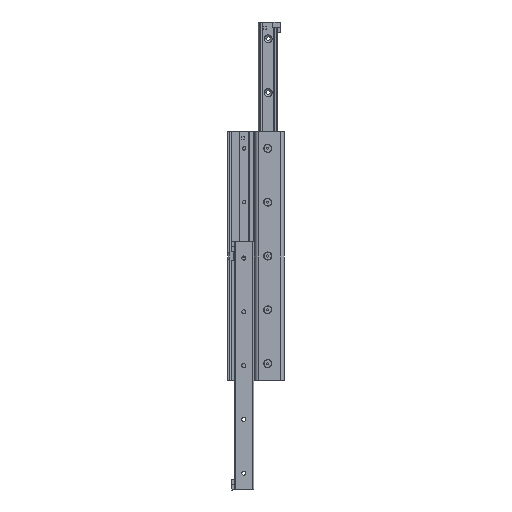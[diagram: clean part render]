
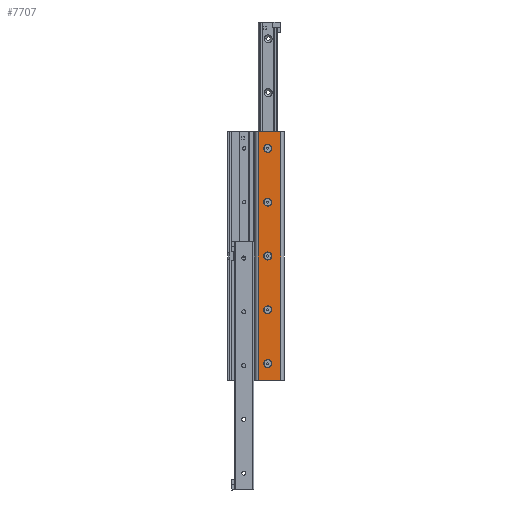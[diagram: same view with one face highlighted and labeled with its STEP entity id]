
A CAD part, left-side view. The second image highlights one B-rep face of the part: STEP entity #7707.
In plain terms, the highlighted planar face has unit normal (-1, 0, 0).
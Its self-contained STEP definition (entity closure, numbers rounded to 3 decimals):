
#43 = CARTESIAN_POINT ( 'NONE',  ( 0., 5., 0. ) ) ;
#86 = VERTEX_POINT ( 'NONE', #6282 ) ;
#317 = EDGE_LOOP ( 'NONE', ( #1723, #1166, #5516, #620 ) ) ;
#365 = AXIS2_PLACEMENT_3D ( 'NONE', #829, #1050, #8838 ) ;
#512 = EDGE_CURVE ( 'NONE', #5264, #86, #5279, .T. ) ;
#620 = ORIENTED_EDGE ( 'NONE', *, *, #4135, .T. ) ;
#646 = LINE ( 'NONE', #9140, #1552 ) ;
#709 = CARTESIAN_POINT ( 'NONE',  ( 0., 5., 0. ) ) ;
#746 = EDGE_CURVE ( 'NONE', #3189, #3294, #3819, .T. ) ;
#759 = PLANE ( 'NONE',  #6441 ) ;
#774 = VERTEX_POINT ( 'NONE', #4989 ) ;
#829 = CARTESIAN_POINT ( 'NONE',  ( 0., 24.5, -345. ) ) ;
#874 = CIRCLE ( 'NONE', #3856, 6. ) ;
#1004 = DIRECTION ( 'NONE',  ( 1., 0., 0. ) ) ;
#1050 = DIRECTION ( 'NONE',  ( 1., 0., 0. ) ) ;
#1152 = CARTESIAN_POINT ( 'NONE',  ( 0., 24.5, -105. ) ) ;
#1166 = ORIENTED_EDGE ( 'NONE', *, *, #5703, .F. ) ;
#1268 = EDGE_CURVE ( 'NONE', #3968, #1489, #9020, .T. ) ;
#1297 = LINE ( 'NONE', #4171, #2199 ) ;
#1349 = FACE_BOUND ( 'NONE', #5715, .T. ) ;
#1464 = EDGE_CURVE ( 'NONE', #3294, #3189, #5806, .T. ) ;
#1475 = AXIS2_PLACEMENT_3D ( 'NONE', #7945, #2961, #8662 ) ;
#1489 = VERTEX_POINT ( 'NONE', #5505 ) ;
#1552 = VECTOR ( 'NONE', #2071, 1000. ) ;
#1606 = VERTEX_POINT ( 'NONE', #5660 ) ;
#1723 = ORIENTED_EDGE ( 'NONE', *, *, #5551, .F. ) ;
#1724 = DIRECTION ( 'NONE',  ( 1., 0., 0. ) ) ;
#1726 = CARTESIAN_POINT ( 'NONE',  ( 0., 38.5, 0. ) ) ;
#1744 = EDGE_LOOP ( 'NONE', ( #5754, #5744 ) ) ;
#1801 = FACE_BOUND ( 'NONE', #2062, .T. ) ;
#1804 = DIRECTION ( 'NONE',  ( 0., -1., 0. ) ) ;
#1886 = EDGE_CURVE ( 'NONE', #86, #5264, #8228, .T. ) ;
#2062 = EDGE_LOOP ( 'NONE', ( #8547, #8502 ) ) ;
#2071 = DIRECTION ( 'NONE',  ( 0., 0., 1. ) ) ;
#2177 = AXIS2_PLACEMENT_3D ( 'NONE', #1152, #8848, #2595 ) ;
#2199 = VECTOR ( 'NONE', #8354, 1000. ) ;
#2280 = LINE ( 'NONE', #7372, #4380 ) ;
#2381 = VERTEX_POINT ( 'NONE', #7161 ) ;
#2439 = CARTESIAN_POINT ( 'NONE',  ( 0., 24.5, -345. ) ) ;
#2492 = DIRECTION ( 'NONE',  ( 1., 0., 0. ) ) ;
#2509 = VERTEX_POINT ( 'NONE', #7872 ) ;
#2595 = DIRECTION ( 'NONE',  ( 0., -1., 0. ) ) ;
#2782 = DIRECTION ( 'NONE',  ( 1., 0., 0. ) ) ;
#2944 = DIRECTION ( 'NONE',  ( 0., -1., 0. ) ) ;
#2961 = DIRECTION ( 'NONE',  ( 1., 0., 0. ) ) ;
#2962 = AXIS2_PLACEMENT_3D ( 'NONE', #8936, #8128, #8874 ) ;
#3020 = FACE_BOUND ( 'NONE', #3741, .T. ) ;
#3189 = VERTEX_POINT ( 'NONE', #7488 ) ;
#3280 = VERTEX_POINT ( 'NONE', #1726 ) ;
#3283 = EDGE_CURVE ( 'NONE', #2381, #774, #7653, .T. ) ;
#3294 = VERTEX_POINT ( 'NONE', #3762 ) ;
#3302 = ORIENTED_EDGE ( 'NONE', *, *, #3886, .T. ) ;
#3327 = DIRECTION ( 'NONE',  ( 0., -1., 0. ) ) ;
#3381 = EDGE_CURVE ( 'NONE', #1606, #5720, #7542, .T. ) ;
#3398 = ORIENTED_EDGE ( 'NONE', *, *, #746, .T. ) ;
#3741 = EDGE_LOOP ( 'NONE', ( #3302, #9171 ) ) ;
#3750 = EDGE_LOOP ( 'NONE', ( #4302, #4769 ) ) ;
#3762 = CARTESIAN_POINT ( 'NONE',  ( 0., 24.5, -259. ) ) ;
#3819 = CIRCLE ( 'NONE', #8650, 6. ) ;
#3844 = AXIS2_PLACEMENT_3D ( 'NONE', #8410, #7042, #7654 ) ;
#3856 = AXIS2_PLACEMENT_3D ( 'NONE', #6049, #2492, #1804 ) ;
#3886 = EDGE_CURVE ( 'NONE', #5720, #1606, #874, .T. ) ;
#3905 = FACE_BOUND ( 'NONE', #1744, .T. ) ;
#3968 = VERTEX_POINT ( 'NONE', #4652 ) ;
#4007 = CARTESIAN_POINT ( 'NONE',  ( 0., 5., -370. ) ) ;
#4135 = EDGE_CURVE ( 'NONE', #8345, #8528, #646, .T. ) ;
#4171 = CARTESIAN_POINT ( 'NONE',  ( 0., 5., -370. ) ) ;
#4302 = ORIENTED_EDGE ( 'NONE', *, *, #4751, .T. ) ;
#4380 = VECTOR ( 'NONE', #7423, 1000. ) ;
#4418 = DIRECTION ( 'NONE',  ( 1., 0., 0. ) ) ;
#4517 = CIRCLE ( 'NONE', #7713, 6. ) ;
#4532 = EDGE_CURVE ( 'NONE', #2509, #8345, #1297, .T. ) ;
#4640 = EDGE_CURVE ( 'NONE', #774, #2381, #6516, .T. ) ;
#4652 = CARTESIAN_POINT ( 'NONE',  ( 0., 24.5, -351. ) ) ;
#4751 = EDGE_CURVE ( 'NONE', #1489, #3968, #4517, .T. ) ;
#4769 = ORIENTED_EDGE ( 'NONE', *, *, #1268, .T. ) ;
#4793 = FACE_OUTER_BOUND ( 'NONE', #317, .T. ) ;
#4989 = CARTESIAN_POINT ( 'NONE',  ( 0., 24.5, -19. ) ) ;
#5225 = CARTESIAN_POINT ( 'NONE',  ( 0., 24.5, -25. ) ) ;
#5264 = VERTEX_POINT ( 'NONE', #5908 ) ;
#5279 = CIRCLE ( 'NONE', #2177, 6. ) ;
#5396 = VECTOR ( 'NONE', #7958, 1000. ) ;
#5505 = CARTESIAN_POINT ( 'NONE',  ( 0., 24.5, -339. ) ) ;
#5516 = ORIENTED_EDGE ( 'NONE', *, *, #4532, .T. ) ;
#5551 = EDGE_CURVE ( 'NONE', #3280, #8528, #8157, .T. ) ;
#5604 = CARTESIAN_POINT ( 'NONE',  ( 0., 24.5, -265. ) ) ;
#5616 = ORIENTED_EDGE ( 'NONE', *, *, #1464, .T. ) ;
#5660 = CARTESIAN_POINT ( 'NONE',  ( 0., 24.5, -191. ) ) ;
#5703 = EDGE_CURVE ( 'NONE', #2509, #3280, #2280, .T. ) ;
#5715 = EDGE_LOOP ( 'NONE', ( #5616, #3398 ) ) ;
#5720 = VERTEX_POINT ( 'NONE', #6630 ) ;
#5744 = ORIENTED_EDGE ( 'NONE', *, *, #3283, .T. ) ;
#5754 = ORIENTED_EDGE ( 'NONE', *, *, #4640, .T. ) ;
#5806 = CIRCLE ( 'NONE', #3844, 6. ) ;
#5908 = CARTESIAN_POINT ( 'NONE',  ( 0., 24.5, -111. ) ) ;
#5981 = AXIS2_PLACEMENT_3D ( 'NONE', #5225, #4418, #7947 ) ;
#6042 = CARTESIAN_POINT ( 'NONE',  ( 0., 24.5, -105. ) ) ;
#6049 = CARTESIAN_POINT ( 'NONE',  ( 0., 24.5, -185. ) ) ;
#6126 = FACE_BOUND ( 'NONE', #3750, .T. ) ;
#6282 = CARTESIAN_POINT ( 'NONE',  ( 0., 24.5, -99. ) ) ;
#6441 = AXIS2_PLACEMENT_3D ( 'NONE', #7957, #7166, #2944 ) ;
#6516 = CIRCLE ( 'NONE', #1475, 6. ) ;
#6630 = CARTESIAN_POINT ( 'NONE',  ( 0., 24.5, -179. ) ) ;
#6691 = AXIS2_PLACEMENT_3D ( 'NONE', #6042, #1004, #8796 ) ;
#7042 = DIRECTION ( 'NONE',  ( 1., 0., 0. ) ) ;
#7161 = CARTESIAN_POINT ( 'NONE',  ( 0., 24.5, -31. ) ) ;
#7166 = DIRECTION ( 'NONE',  ( -1., 0., 0. ) ) ;
#7372 = CARTESIAN_POINT ( 'NONE',  ( 0., 38.5, -370. ) ) ;
#7423 = DIRECTION ( 'NONE',  ( 0., 0., 1. ) ) ;
#7488 = CARTESIAN_POINT ( 'NONE',  ( 0., 24.5, -271. ) ) ;
#7542 = CIRCLE ( 'NONE', #2962, 6. ) ;
#7653 = CIRCLE ( 'NONE', #5981, 6. ) ;
#7654 = DIRECTION ( 'NONE',  ( 0., -1., 0. ) ) ;
#7707 = ADVANCED_FACE ( 'NONE', ( #6126, #1349, #3020, #1801, #3905, #4793 ), #759, .T. ) ;
#7713 = AXIS2_PLACEMENT_3D ( 'NONE', #2439, #1724, #8159 ) ;
#7872 = CARTESIAN_POINT ( 'NONE',  ( 0., 38.5, -370. ) ) ;
#7945 = CARTESIAN_POINT ( 'NONE',  ( 0., 24.5, -25. ) ) ;
#7947 = DIRECTION ( 'NONE',  ( 0., -1., 0. ) ) ;
#7957 = CARTESIAN_POINT ( 'NONE',  ( 0., 5., -370. ) ) ;
#7958 = DIRECTION ( 'NONE',  ( 0., -1., 0. ) ) ;
#8128 = DIRECTION ( 'NONE',  ( 1., 0., 0. ) ) ;
#8157 = LINE ( 'NONE', #43, #5396 ) ;
#8159 = DIRECTION ( 'NONE',  ( 0., -1., 0. ) ) ;
#8228 = CIRCLE ( 'NONE', #6691, 6. ) ;
#8345 = VERTEX_POINT ( 'NONE', #4007 ) ;
#8354 = DIRECTION ( 'NONE',  ( 0., -1., 0. ) ) ;
#8410 = CARTESIAN_POINT ( 'NONE',  ( 0., 24.5, -265. ) ) ;
#8502 = ORIENTED_EDGE ( 'NONE', *, *, #512, .T. ) ;
#8528 = VERTEX_POINT ( 'NONE', #709 ) ;
#8547 = ORIENTED_EDGE ( 'NONE', *, *, #1886, .T. ) ;
#8650 = AXIS2_PLACEMENT_3D ( 'NONE', #5604, #2782, #3327 ) ;
#8662 = DIRECTION ( 'NONE',  ( 0., -1., 0. ) ) ;
#8796 = DIRECTION ( 'NONE',  ( 0., -1., 0. ) ) ;
#8838 = DIRECTION ( 'NONE',  ( 0., -1., 0. ) ) ;
#8848 = DIRECTION ( 'NONE',  ( 1., 0., 0. ) ) ;
#8874 = DIRECTION ( 'NONE',  ( 0., -1., 0. ) ) ;
#8936 = CARTESIAN_POINT ( 'NONE',  ( 0., 24.5, -185. ) ) ;
#9020 = CIRCLE ( 'NONE', #365, 6. ) ;
#9140 = CARTESIAN_POINT ( 'NONE',  ( 0., 5., -370. ) ) ;
#9171 = ORIENTED_EDGE ( 'NONE', *, *, #3381, .T. ) ;
